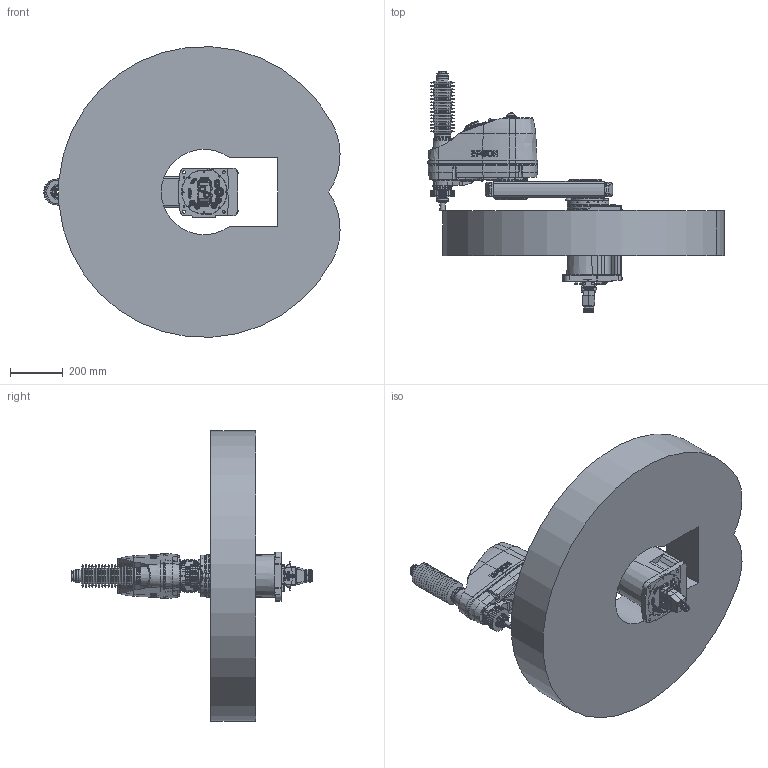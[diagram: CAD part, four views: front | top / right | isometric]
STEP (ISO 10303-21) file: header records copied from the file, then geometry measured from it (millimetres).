
FILE_DESCRIPTION( ( 'STEP AP214' ), '1' );
FILE_NAME( 'C:/Users/9607552/Desktop/GX8-B552PB_straight.stp', '2023-07-07T02:35:38', ( '' ), ( '' ), ' ', 'PARTsolutions', ' ' );
FILE_SCHEMA( ( 'AUTOMOTIVE_DESIGN { 1 0 10303 214 1 1 1 1 }' ) );
Length unit declared in the file: millimetre
Products named in the file (11): GX8-B552PB-SW; _B452PBbasegx8; _B552Sj1arm; _GX8-B552PBj1arm2; _GX8-B552PBj1arm1; _B452P_J2; _B452CZA; _1-B-long; _1-B-short; _Straight-B; _GX8-16-B_WS
Assembly tree (12 placements, depth 2):
  GX8-B552PB-SW
    _B452PBbasegx8
    _B552Sj1arm
    _GX8-B552PBj1arm2  x2
    _GX8-B552PBj1arm1  x2
    _B452P_J2
    _B452CZA
    _1-B-long
    _1-B-short
    _Straight-B
    _GX8-16-B_WS
Bounding box: 1119.76 x 909.35 x 1098.33 mm (x, y, z)
Volume: 162975699.5 mm3; surface area: 3924662.4 mm2
Topology: 12 solids, 17 shells, 3466 faces, 8381 edges, 5439 vertices
Faces by surface type: plane 1693, cylinder 1122, cone 453, torus 156, bspline 37, sphere 5
Full cylindrical faces by diameter (mm): 1 x48, 1.18 x55, 2.459 x4, 3 x32, 3.242 x20, 3.3 x4, 3.9 x4, 4.2 x6, 4.5 x12, 4.8 x5, 4.917 x2, 5.34 x4, 5.5 x25, 6 x5, 6.2 x2, 6.4 x1, 6.647 x4, 6.8 x2, 7 x48, 7.4 x1, 8 x5, 8.5 x6, 9 x24, 10 x18, 10.106 x1, 11 x4, 11.2 x7, 12 x5, 12.25 x1, 13 x3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
Entity records: 123467 total; most frequent: CARTESIAN_POINT 23357, DIRECTION 15299, ORIENTED_EDGE 13866, EDGE_CURVE 6933, AXIS2_PLACEMENT_3D 6005, VERTEX_POINT 5017, EDGE_LOOP 4688, FACE_OUTER_BOUND 3899
